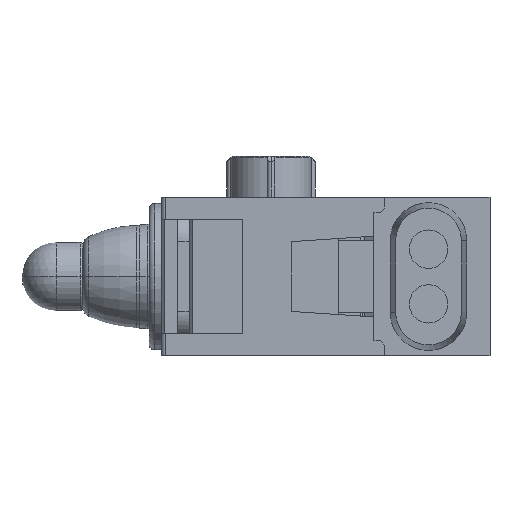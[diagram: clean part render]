
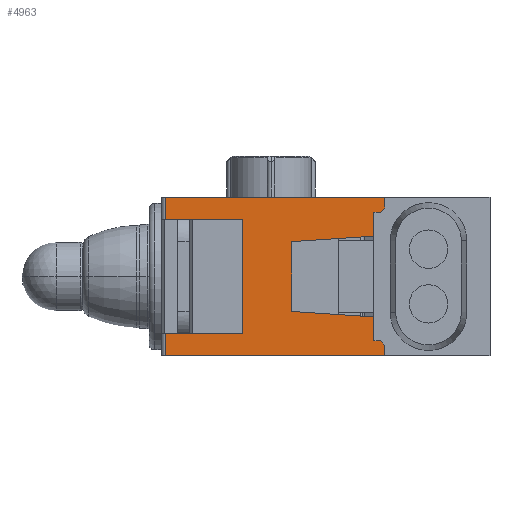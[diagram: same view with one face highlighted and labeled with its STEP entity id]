
A CAD part, left-side view. The second image highlights one B-rep face of the part: STEP entity #4963.
In plain terms, the highlighted planar face has unit normal (-1, 0, 0).
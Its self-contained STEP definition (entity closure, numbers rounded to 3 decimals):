
#1164 = DIRECTION ( 'NONE',  ( 0., -0.707, 0.707 ) ) ;
#1165 = VECTOR ( 'NONE', #1164, 1000. ) ;
#1166 = CARTESIAN_POINT ( 'NONE',  ( -6.5, 0.2, 2.502 ) ) ;
#1167 = LINE ( 'NONE', #1166, #1165 ) ;
#1169 = CARTESIAN_POINT ( 'NONE',  ( -6.5, 0.2, 2.502 ) ) ;
#1358 = DIRECTION ( 'NONE',  ( 0., 0., 1. ) ) ;
#1359 = VECTOR ( 'NONE', #1358, 1000. ) ;
#1360 = CARTESIAN_POINT ( 'NONE',  ( -6.5, 0.2, 2.502 ) ) ;
#1361 = LINE ( 'NONE', #1360, #1359 ) ;
#1363 = CARTESIAN_POINT ( 'NONE',  ( -6.5, 0.2, 2.9 ) ) ;
#1490 = LINE ( 'NONE', #1592, #1591 ) ;
#1554 = CARTESIAN_POINT ( 'NONE',  ( -6.5, 0.2, -2.9 ) ) ;
#1555 = DIRECTION ( 'NONE',  ( 0., 0., 1. ) ) ;
#1556 = VECTOR ( 'NONE', #1555, 1000. ) ;
#1557 = CARTESIAN_POINT ( 'NONE',  ( -6.5, 0.2, -2.502 ) ) ;
#1558 = LINE ( 'NONE', #1557, #1556 ) ;
#1559 = CARTESIAN_POINT ( 'NONE',  ( -6.5, 0.2, -2.502 ) ) ;
#1590 = DIRECTION ( 'NONE',  ( 0., 0.707, 0.707 ) ) ;
#1591 = VECTOR ( 'NONE', #1590, 1000. ) ;
#1592 = CARTESIAN_POINT ( 'NONE',  ( -6.5, 0.2, -2.502 ) ) ;
#3111 = VERTEX_POINT ( 'NONE', #12293 ) ;
#3113 = EDGE_CURVE ( 'NONE', #3114, #3111, #12292, .T. ) ;
#3114 = VERTEX_POINT ( 'NONE', #12288 ) ;
#3177 = VERTEX_POINT ( 'NONE', #1559 ) ;
#3179 = EDGE_CURVE ( 'NONE', #3180, #3177, #1558, .T. ) ;
#3180 = VERTEX_POINT ( 'NONE', #1554 ) ;
#3192 = EDGE_CURVE ( 'NONE', #3177, #3114, #1490, .T. ) ;
#3595 = VERTEX_POINT ( 'NONE', #1169 ) ;
#3597 = EDGE_CURVE ( 'NONE', #3764, #3595, #1167, .T. ) ;
#3622 = VERTEX_POINT ( 'NONE', #1363 ) ;
#3624 = EDGE_CURVE ( 'NONE', #3595, #3622, #1361, .T. ) ;
#3764 = VERTEX_POINT ( 'NONE', #9661 ) ;
#3766 = EDGE_CURVE ( 'NONE', #3767, #3764, #9659, .T. ) ;
#3767 = VERTEX_POINT ( 'NONE', #9654 ) ;
#3790 = VERTEX_POINT ( 'NONE', #9553 ) ;
#3795 = EDGE_CURVE ( 'NONE', #3790, #3767, #9542, .T. ) ;
#3804 = VERTEX_POINT ( 'NONE', #9472 ) ;
#3812 = EDGE_CURVE ( 'NONE', #3111, #3804, #6315, .T. ) ;
#4259 = EDGE_CURVE ( 'NONE', #4260, #3180, #7648, .T. ) ;
#4260 = VERTEX_POINT ( 'NONE', #7643 ) ;
#4440 = VERTEX_POINT ( 'NONE', #8570 ) ;
#4442 = EDGE_CURVE ( 'NONE', #4440, #3622, #8569, .T. ) ;
#4818 = EDGE_CURVE ( 'NONE', #4819, #5220, #11073, .T. ) ;
#4819 = VERTEX_POINT ( 'NONE', #11069 ) ;
#4820 = ORIENTED_EDGE ( 'NONE', *, *, #4821, .T. ) ;
#4821 = EDGE_CURVE ( 'NONE', #4819, #4260, #11068, .T. ) ;
#4822 = ORIENTED_EDGE ( 'NONE', *, *, #4259, .T. ) ;
#4823 = ORIENTED_EDGE ( 'NONE', *, *, #3179, .T. ) ;
#4824 = ORIENTED_EDGE ( 'NONE', *, *, #3192, .T. ) ;
#4825 = ORIENTED_EDGE ( 'NONE', *, *, #3113, .T. ) ;
#4839 = ORIENTED_EDGE ( 'NONE', *, *, #3624, .T. ) ;
#4860 = ORIENTED_EDGE ( 'NONE', *, *, #3812, .T. ) ;
#4861 = ORIENTED_EDGE ( 'NONE', *, *, #4862, .T. ) ;
#4862 = EDGE_CURVE ( 'NONE', #3804, #4863, #11463, .T. ) ;
#4863 = VERTEX_POINT ( 'NONE', #11458 ) ;
#4864 = ORIENTED_EDGE ( 'NONE', *, *, #4865, .T. ) ;
#4865 = EDGE_CURVE ( 'NONE', #4863, #4866, #11300, .T. ) ;
#4866 = VERTEX_POINT ( 'NONE', #11293 ) ;
#4867 = ORIENTED_EDGE ( 'NONE', *, *, #4868, .T. ) ;
#4868 = EDGE_CURVE ( 'NONE', #4866, #3790, #11289, .T. ) ;
#4869 = ORIENTED_EDGE ( 'NONE', *, *, #3795, .T. ) ;
#4870 = ORIENTED_EDGE ( 'NONE', *, *, #3766, .T. ) ;
#4871 = ORIENTED_EDGE ( 'NONE', *, *, #3597, .T. ) ;
#4963 = ADVANCED_FACE ( 'NONE', ( #11821 ), #11788, .F. ) ;
#4964 = EDGE_LOOP ( 'NONE', ( #4965, #5215, #5212, #5218, #5221, #4820, #4822, #4823, #4824, #4825, #4860, #4861, #4864, #4867, #4869, #4870, #4871, #4839 ) ) ;
#4965 = ORIENTED_EDGE ( 'NONE', *, *, #4442, .F. ) ;
#5212 = ORIENTED_EDGE ( 'NONE', *, *, #5213, .F. ) ;
#5213 = EDGE_CURVE ( 'NONE', #5214, #5217, #13169, .T. ) ;
#5214 = VERTEX_POINT ( 'NONE', #13165 ) ;
#5215 = ORIENTED_EDGE ( 'NONE', *, *, #5216, .T. ) ;
#5216 = EDGE_CURVE ( 'NONE', #4440, #5217, #13164, .T. ) ;
#5217 = VERTEX_POINT ( 'NONE', #13160 ) ;
#5218 = ORIENTED_EDGE ( 'NONE', *, *, #5219, .T. ) ;
#5219 = EDGE_CURVE ( 'NONE', #5214, #5220, #13159, .T. ) ;
#5220 = VERTEX_POINT ( 'NONE', #13155 ) ;
#5221 = ORIENTED_EDGE ( 'NONE', *, *, #4818, .F. ) ;
#6312 = DIRECTION ( 'NONE',  ( 0., 0., 1. ) ) ;
#6313 = VECTOR ( 'NONE', #6312, 1000. ) ;
#6314 = CARTESIAN_POINT ( 'NONE',  ( -6.5, 0.6, -2.352 ) ) ;
#6315 = LINE ( 'NONE', #6314, #6313 ) ;
#7643 = CARTESIAN_POINT ( 'NONE',  ( -6.5, 8.205, -2.9 ) ) ;
#7644 = DIRECTION ( 'NONE',  ( 0., -1., 0. ) ) ;
#7645 = VECTOR ( 'NONE', #7644, 1000. ) ;
#7647 = CARTESIAN_POINT ( 'NONE',  ( -6.5, 8.355, -2.9 ) ) ;
#7648 = LINE ( 'NONE', #7647, #7645 ) ;
#8566 = DIRECTION ( 'NONE',  ( 0., -1., 0. ) ) ;
#8567 = VECTOR ( 'NONE', #8566, 1000. ) ;
#8568 = CARTESIAN_POINT ( 'NONE',  ( -6.5, 8.355, 2.9 ) ) ;
#8569 = LINE ( 'NONE', #8568, #8567 ) ;
#8570 = CARTESIAN_POINT ( 'NONE',  ( -6.5, 8.205, 2.9 ) ) ;
#9472 = CARTESIAN_POINT ( 'NONE',  ( -6.5, 0.6, -1.475 ) ) ;
#9539 = DIRECTION ( 'NONE',  ( 0., 0., 1. ) ) ;
#9540 = VECTOR ( 'NONE', #9539, 1000. ) ;
#9541 = CARTESIAN_POINT ( 'NONE',  ( -6.5, 0.6, 1.475 ) ) ;
#9542 = LINE ( 'NONE', #9541, #9540 ) ;
#9553 = CARTESIAN_POINT ( 'NONE',  ( -6.5, 0.6, 1.475 ) ) ;
#9654 = CARTESIAN_POINT ( 'NONE',  ( -6.5, 0.6, 2.352 ) ) ;
#9655 = DIRECTION ( 'NONE',  ( 0., -1., 0. ) ) ;
#9656 = VECTOR ( 'NONE', #9655, 1000. ) ;
#9657 = CARTESIAN_POINT ( 'NONE',  ( -6.5, 7.77, 2.353 ) ) ;
#9659 = LINE ( 'NONE', #9657, #9656 ) ;
#9661 = CARTESIAN_POINT ( 'NONE',  ( -6.5, 0.35, 2.352 ) ) ;
#11065 = DIRECTION ( 'NONE',  ( 0., 0., -1. ) ) ;
#11066 = VECTOR ( 'NONE', #11065, 1000. ) ;
#11067 = CARTESIAN_POINT ( 'NONE',  ( -6.5, 8.205, 2.9 ) ) ;
#11068 = LINE ( 'NONE', #11067, #11066 ) ;
#11069 = CARTESIAN_POINT ( 'NONE',  ( -6.5, 8.205, -2.095 ) ) ;
#11070 = DIRECTION ( 'NONE',  ( 0., -1., 0. ) ) ;
#11071 = VECTOR ( 'NONE', #11070, 1000. ) ;
#11072 = CARTESIAN_POINT ( 'NONE',  ( -6.5, 8.355, -2.095 ) ) ;
#11073 = LINE ( 'NONE', #11072, #11071 ) ;
#11284 = DIRECTION ( 'NONE',  ( 0., -0.998, 0.067 ) ) ;
#11285 = VECTOR ( 'NONE', #11284, 1000. ) ;
#11287 = CARTESIAN_POINT ( 'NONE',  ( -6.5, 3.6, 1.275 ) ) ;
#11289 = LINE ( 'NONE', #11287, #11285 ) ;
#11293 = CARTESIAN_POINT ( 'NONE',  ( -6.5, 3.6, 1.275 ) ) ;
#11296 = DIRECTION ( 'NONE',  ( 0., 0., 1. ) ) ;
#11297 = VECTOR ( 'NONE', #11296, 1000. ) ;
#11298 = CARTESIAN_POINT ( 'NONE',  ( -6.5, 3.6, -2.352 ) ) ;
#11300 = LINE ( 'NONE', #11298, #11297 ) ;
#11458 = CARTESIAN_POINT ( 'NONE',  ( -6.5, 3.6, -1.275 ) ) ;
#11460 = DIRECTION ( 'NONE',  ( 0., 0.998, 0.067 ) ) ;
#11461 = VECTOR ( 'NONE', #11460, 1000. ) ;
#11462 = CARTESIAN_POINT ( 'NONE',  ( -6.5, 0.6, -1.475 ) ) ;
#11463 = LINE ( 'NONE', #11462, #11461 ) ;
#11778 = DIRECTION ( 'NONE',  ( 0., 0., -1. ) ) ;
#11781 = DIRECTION ( 'NONE',  ( 1., 0., 0. ) ) ;
#11784 = CARTESIAN_POINT ( 'NONE',  ( -6.5, 8.355, 2.9 ) ) ;
#11786 = AXIS2_PLACEMENT_3D ( 'NONE', #11784, #11781, #11778 ) ;
#11788 = PLANE ( 'NONE',  #11786 ) ;
#11821 = FACE_OUTER_BOUND ( 'NONE', #4964, .T. ) ;
#12288 = CARTESIAN_POINT ( 'NONE',  ( -6.5, 0.35, -2.352 ) ) ;
#12289 = DIRECTION ( 'NONE',  ( 0., 1., 0. ) ) ;
#12290 = VECTOR ( 'NONE', #12289, 1000. ) ;
#12291 = CARTESIAN_POINT ( 'NONE',  ( -6.5, 7.77, -2.353 ) ) ;
#12292 = LINE ( 'NONE', #12291, #12290 ) ;
#12293 = CARTESIAN_POINT ( 'NONE',  ( -6.5, 0.6, -2.352 ) ) ;
#13155 = CARTESIAN_POINT ( 'NONE',  ( -6.5, 5.39, -2.095 ) ) ;
#13156 = DIRECTION ( 'NONE',  ( 0., 0., -1. ) ) ;
#13157 = VECTOR ( 'NONE', #13156, 1000. ) ;
#13158 = CARTESIAN_POINT ( 'NONE',  ( -6.5, 5.39, -2.095 ) ) ;
#13159 = LINE ( 'NONE', #13158, #13157 ) ;
#13160 = CARTESIAN_POINT ( 'NONE',  ( -6.5, 8.205, 2.095 ) ) ;
#13161 = DIRECTION ( 'NONE',  ( 0., 0., -1. ) ) ;
#13162 = VECTOR ( 'NONE', #13161, 1000. ) ;
#13163 = CARTESIAN_POINT ( 'NONE',  ( -6.5, 8.205, 2.9 ) ) ;
#13164 = LINE ( 'NONE', #13163, #13162 ) ;
#13165 = CARTESIAN_POINT ( 'NONE',  ( -6.5, 5.39, 2.095 ) ) ;
#13166 = DIRECTION ( 'NONE',  ( 0., 1., 0. ) ) ;
#13167 = VECTOR ( 'NONE', #13166, 1000. ) ;
#13168 = CARTESIAN_POINT ( 'NONE',  ( -6.5, 8.355, 2.095 ) ) ;
#13169 = LINE ( 'NONE', #13168, #13167 ) ;
